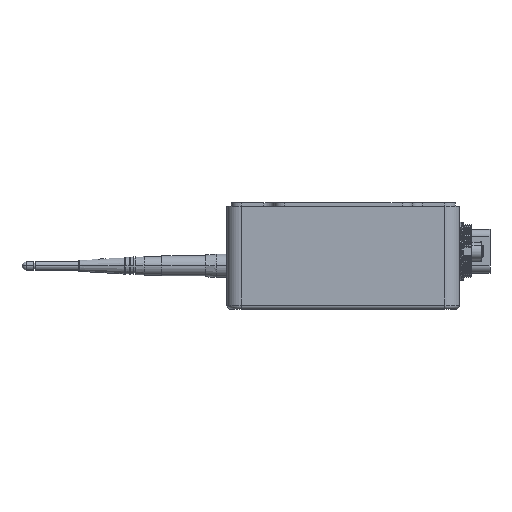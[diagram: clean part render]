
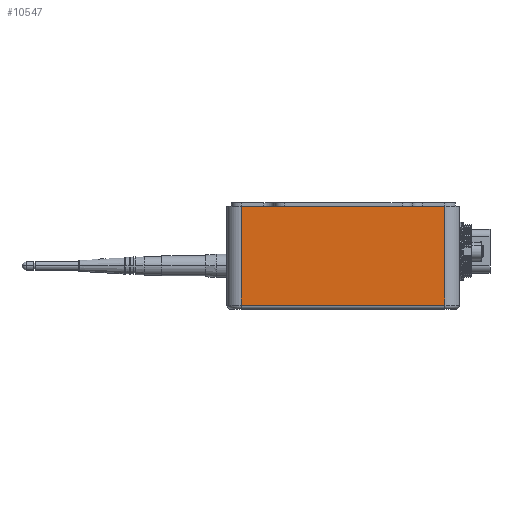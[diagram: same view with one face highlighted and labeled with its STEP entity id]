
A CAD part, left-side view. The second image highlights one B-rep face of the part: STEP entity #10547.
In plain terms, the highlighted planar face has unit normal (-1, 0, 0).
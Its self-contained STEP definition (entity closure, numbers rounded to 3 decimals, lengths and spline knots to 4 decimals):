
#953=DIRECTION('',(0.,-1.,0.));
#954=VECTOR('',#953,5.5118);
#955=CARTESIAN_POINT('',(-7.0866,2.7559,2.7953));
#956=LINE('',#955,#954);
#1307=DIRECTION('',(0.,1.,0.));
#1308=VECTOR('',#1307,5.5118);
#1309=CARTESIAN_POINT('',(-7.0866,-2.7559,
0.1181));
#1310=LINE('',#1309,#1308);
#1311=DIRECTION('',(0.,0.,-1.));
#1312=VECTOR('',#1311,2.6772);
#1313=CARTESIAN_POINT('',(-7.0866,2.7559,2.7953));
#1314=LINE('',#1313,#1312);
#1315=DIRECTION('',(0.,0.,-1.));
#1316=VECTOR('',#1315,2.6772);
#1317=CARTESIAN_POINT('',(-7.0866,-2.7559,
2.7953));
#1318=LINE('',#1317,#1316);
#7439=CARTESIAN_POINT('',(-7.0866,-2.7559,
2.7953));
#7441=VERTEX_POINT('',#7439);
#7444=CARTESIAN_POINT('',(-7.0866,2.7559,2.7953));
#7446=VERTEX_POINT('',#7444);
#7728=CARTESIAN_POINT('',(-7.0866,-2.7559,
0.1181));
#7730=VERTEX_POINT('',#7728);
#7733=CARTESIAN_POINT('',(-7.0866,2.7559,
0.1181));
#7734=VERTEX_POINT('',#7733);
#10535=CARTESIAN_POINT('',(-7.0866,3.1496,0.));
#10536=DIRECTION('',(-1.,0.,0.));
#10537=DIRECTION('',(0.,-1.,0.));
#10538=AXIS2_PLACEMENT_3D('',#10535,#10536,#10537);
#10539=PLANE('',#10538);
#10540=ORIENTED_EDGE('',*,*,#10416,.T.);
#10541=ORIENTED_EDGE('',*,*,#10530,.F.);
#10542=ORIENTED_EDGE('',*,*,#10214,.T.);
#10544=ORIENTED_EDGE('',*,*,#10543,.T.);
#10545=EDGE_LOOP('',(#10540,#10541,#10542,#10544));
#10546=FACE_OUTER_BOUND('',#10545,.F.);
#10547=ADVANCED_FACE('',(#10546),#10539,.T.);
#10214=EDGE_CURVE('',#7446,#7441,#956,.T.);
#10416=EDGE_CURVE('',#7730,#7734,#1310,.T.);
#10530=EDGE_CURVE('',#7446,#7734,#1314,.T.);
#10543=EDGE_CURVE('',#7441,#7730,#1318,.T.);
